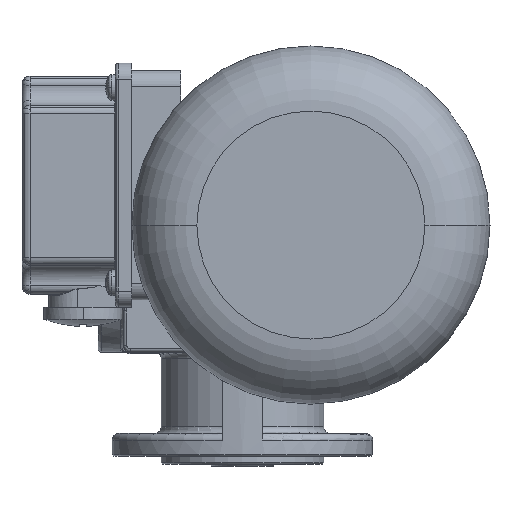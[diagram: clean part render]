
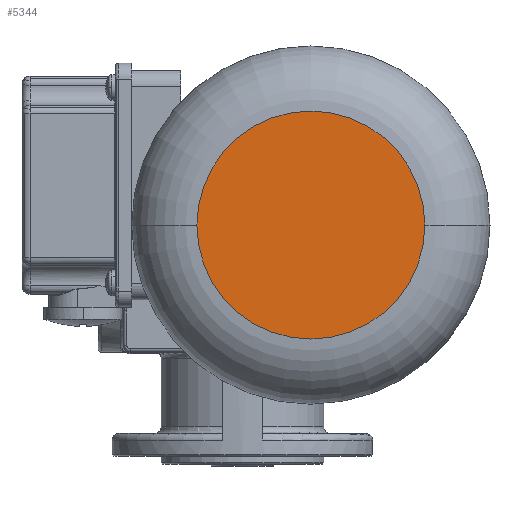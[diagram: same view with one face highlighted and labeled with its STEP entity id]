
A CAD part, left-side view. The second image highlights one B-rep face of the part: STEP entity #5344.
In plain terms, the highlighted planar face has unit normal (-1, 0, 0).
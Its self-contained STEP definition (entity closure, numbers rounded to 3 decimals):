
#1452 = AXIS2_PLACEMENT_3D ( 'NONE', #15564, #28105, #8973 ) ;
#3384 = CARTESIAN_POINT ( 'NONE',  ( 0., 0., 35. ) ) ;
#3902 = EDGE_CURVE ( 'NONE', #25471, #27451, #14109, .T. ) ;
#5344 = ADVANCED_FACE ( 'NONE', ( #18407 ), #17860, .F. ) ;
#6836 = CIRCLE ( 'NONE', #1452, 35. ) ;
#8973 = DIRECTION ( 'NONE',  ( 0., 0., -1. ) ) ;
#9399 = DIRECTION ( 'NONE',  ( 1., 0., 0. ) ) ;
#9436 = ORIENTED_EDGE ( 'NONE', *, *, #11824, .T. ) ;
#11824 = EDGE_CURVE ( 'NONE', #27451, #25471, #6836, .T. ) ;
#14109 = CIRCLE ( 'NONE', #25461, 35. ) ;
#14729 = DIRECTION ( 'NONE',  ( 0., 0., -1. ) ) ;
#15564 = CARTESIAN_POINT ( 'NONE',  ( 0., 0., 0. ) ) ;
#16139 = DIRECTION ( 'NONE',  ( 0., 0., -1. ) ) ;
#17860 = PLANE ( 'NONE',  #23054 ) ;
#18407 = FACE_OUTER_BOUND ( 'NONE', #26407, .T. ) ;
#18865 = DIRECTION ( 'NONE',  ( -1., 0., 0. ) ) ;
#22282 = CARTESIAN_POINT ( 'NONE',  ( 0., 0., 0. ) ) ;
#23003 = CARTESIAN_POINT ( 'NONE',  ( 0., 0., 0. ) ) ;
#23054 = AXIS2_PLACEMENT_3D ( 'NONE', #22282, #9399, #16139 ) ;
#24364 = ORIENTED_EDGE ( 'NONE', *, *, #3902, .T. ) ;
#25461 = AXIS2_PLACEMENT_3D ( 'NONE', #23003, #18865, #14729 ) ;
#25471 = VERTEX_POINT ( 'NONE', #3384 ) ;
#26045 = CARTESIAN_POINT ( 'NONE',  ( 0., 0., -35. ) ) ;
#26407 = EDGE_LOOP ( 'NONE', ( #9436, #24364 ) ) ;
#27451 = VERTEX_POINT ( 'NONE', #26045 ) ;
#28105 = DIRECTION ( 'NONE',  ( -1., 0., 0. ) ) ;
